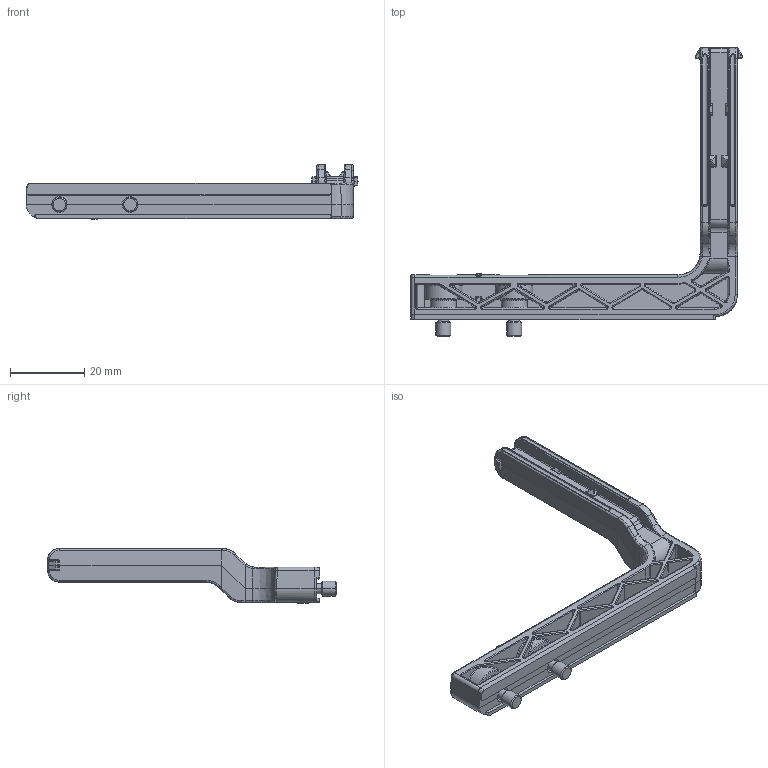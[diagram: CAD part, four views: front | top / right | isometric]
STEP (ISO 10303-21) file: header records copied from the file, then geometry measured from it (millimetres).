
FILE_DESCRIPTION (( 'STEP AP203' ), '1' );
FILE_NAME ('00030516 - PLASTIC FINGER WIDE SHORT WITH CAPTIVE SCREWS.step', '2013-04-05T16:25:05', ( '' ), ( '' ), 'SwSTEP 2.0', 'SolidWorks 2012', '' );
FILE_SCHEMA (( 'CONFIG_CONTROL_DESIGN' ));
Length unit declared in the file: millimetre
Products named in the file (1): 00030516 - PLASTIC FINGER WIDE SHORT WITH CAPTIVE SCREWS
Bounding box: 89.15 x 77.5 x 14.75 mm (x, y, z)
Surface area: 9678.9 mm2 (no closed solid volume)
Topology: 0 solids, 5 shells, 781 faces, 2090 edges, 1231 vertices
Faces by surface type: cylinder 334, bspline 224, plane 153, torus 29, cone 23, sphere 18
Entity records: 28720 total; most frequent: CARTESIAN_POINT 11896, ORIENTED_EDGE 3708, DIRECTION 3148, EDGE_CURVE 2066, VERTEX_POINT 1231, AXIS2_PLACEMENT_3D 1172, VECTOR 804, LINE 804
